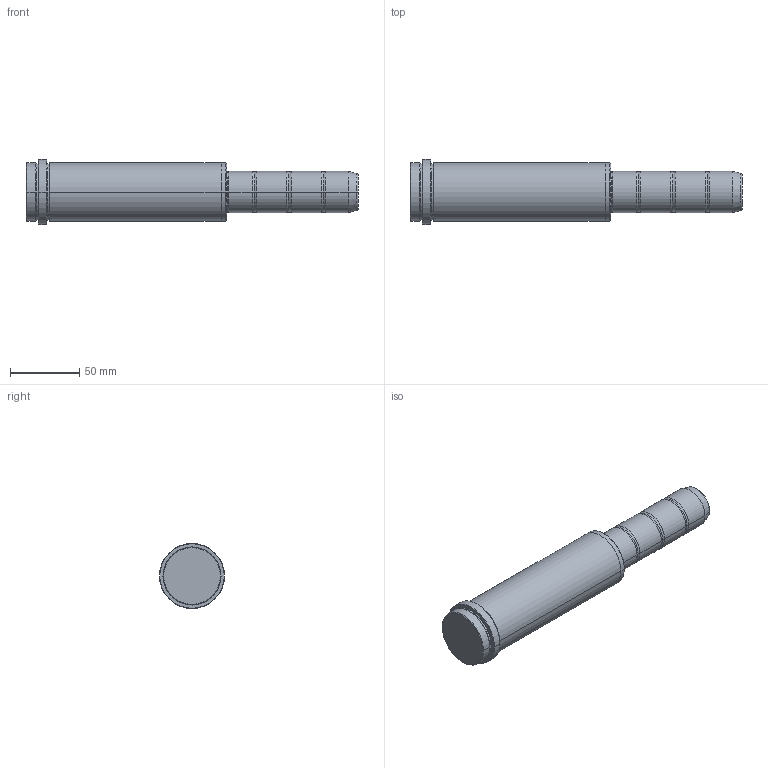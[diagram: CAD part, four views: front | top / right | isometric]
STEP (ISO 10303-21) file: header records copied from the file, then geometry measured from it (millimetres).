
FILE_DESCRIPTION (( 'STEP AP203' ), '1' );
FILE_NAME ('GDP-EC-30-136-095.step', '2015-12-05T00:19:38', ( '' ), ( '' ), 'SwSTEP 2.0', 'SolidWorks 2009', '' );
FILE_SCHEMA (( 'CONFIG_CONTROL_DESIGN' ));
Length unit declared in the file: millimetre
Products named in the file (1): GDP-EC-30-136-095
Bounding box: 240 x 47 x 47 mm (x, y, z)
Volume: 269037.8 mm3; surface area: 31474.8 mm2
Topology: 1 solids, 1 shells, 64 faces, 126 edges, 70 vertices
Faces by surface type: torus 26, cylinder 20, cone 10, plane 8
Entity records: 1727 total; most frequent: DIRECTION 352, CARTESIAN_POINT 261, ORIENTED_EDGE 252, AXIS2_PLACEMENT_3D 161, EDGE_CURVE 126, CIRCLE 96, EDGE_LOOP 70, VERTEX_POINT 70
